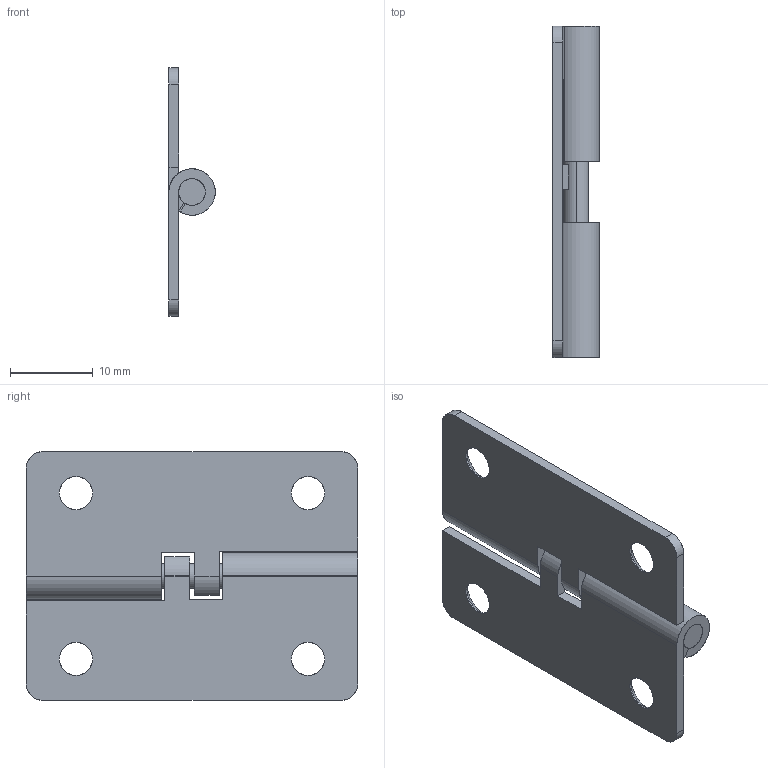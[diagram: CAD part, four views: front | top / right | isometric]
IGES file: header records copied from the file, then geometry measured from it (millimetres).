
Start section: SolidWorks IGES FILE using analytic representation for surfaces
Global section: file name: E:\妙子\仕事\solidworks\ヒンジ0829\DEH-31\DEH-31-2(L)\DEH-31-2(L).IGS; native system: SolidWorks 2003 by SolidWorks Corporation; preprocessor: Version 5.3; author: 妙子,,; organization: 11; date: 130829.143736; units: millimetre
Bounding box: 5.6 x 40 x 30 mm (x, y, z)
Surface area: 3554.7 mm2 (no closed solid volume)
Topology: 0 solids, 0 shells, 61 faces, 912 edges, 912 vertices
Faces by surface type: revolution 34, bspline 27
